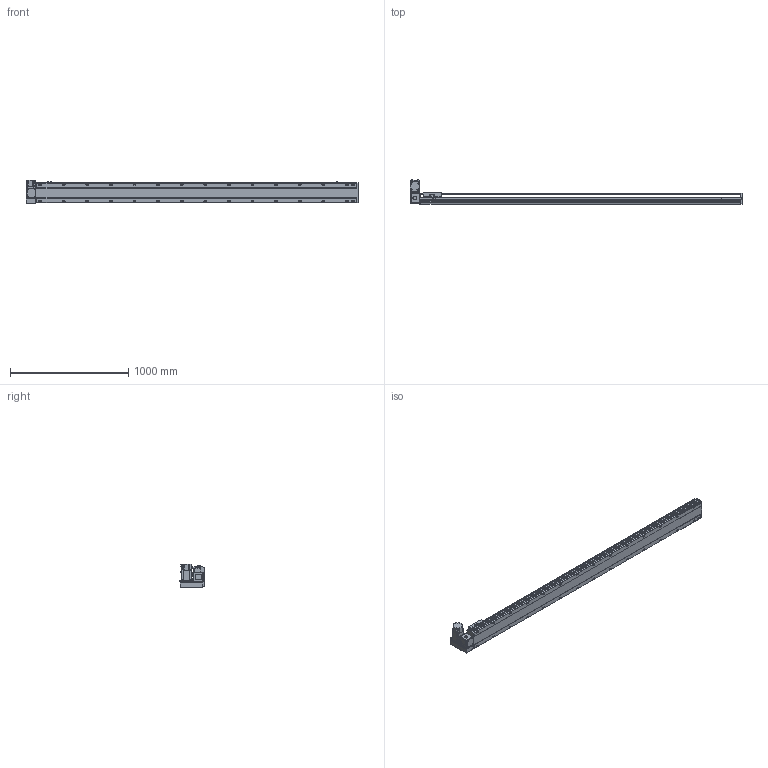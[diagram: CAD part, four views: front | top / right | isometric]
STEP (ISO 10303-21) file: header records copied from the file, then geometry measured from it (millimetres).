
FILE_DESCRIPTION( ( 'STEP AP214' ), '1' );
FILE_NAME( 'x:/temp/worker_4/temp/exporttempdir_2248_416_IKO4l/format_0/PBS170-P40-S2450-LU-T75-C1-N(0).stp', '2022-06-07T08:17:21', ( 'License CC BY-ND 4.0' ), ( 'CADENAS' ), ' ', 'PARTsolutions', ' ' );
FILE_SCHEMA( ( 'AUTOMOTIVE_DESIGN { 1 0 10303 214 1 1 1 1 }' ) );
Length unit declared in the file: millimetre
Products named in the file (7): PBS170-P40-S2450-LU-T75-C1-N(0); _PBS170-S2450()_body; _PBS170T-LU_motors; _T75-p1; _PBS170_sliser; _PBS170_plant; _PBS170_sensor
Assembly tree (8 placements, depth 2):
  PBS170-P40-S2450-LU-T75-C1-N(0)
    _PBS170-S2450()_body
    _PBS170T-LU_motors
    _T75-p1
    _PBS170_sliser
    _PBS170_plant
    _PBS170_sensor  x3
Bounding box: 2813 x 206 x 197.3 mm (x, y, z)
Volume: 21319367.1 mm3; surface area: 2687759.7 mm2
Topology: 8 solids, 8 shells, 1194 faces, 3155 edges, 2056 vertices
Faces by surface type: plane 729, cylinder 395, cone 60, sphere 8, torus 2
Full cylindrical faces by diameter (mm): 3.242 x4, 4 x2, 4.4 x4, 4.5 x6, 4.917 x4, 6 x9, 6.647 x38, 7 x2, 7.5 x4, 8 x8, 8.5 x30, 10 x4, 10.5 x30, 11 x2, 30 x2, 40 x1, 70 x1
Entity records: 44234 total; most frequent: CARTESIAN_POINT 7397, DIRECTION 5790, ORIENTED_EDGE 5448, EDGE_CURVE 2724, AXIS2_PLACEMENT_3D 2047, VERTEX_POINT 1898, LINE 1696, VECTOR 1696
